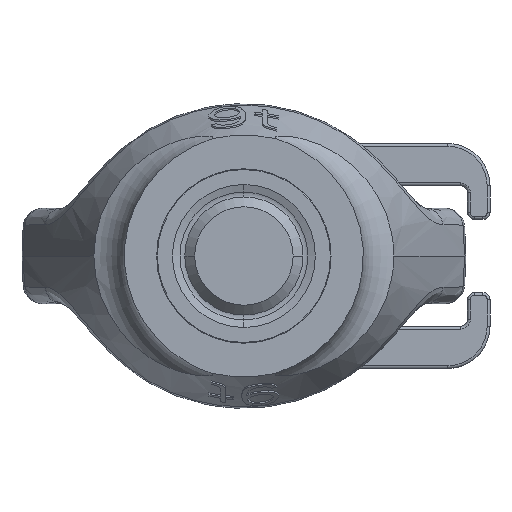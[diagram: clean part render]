
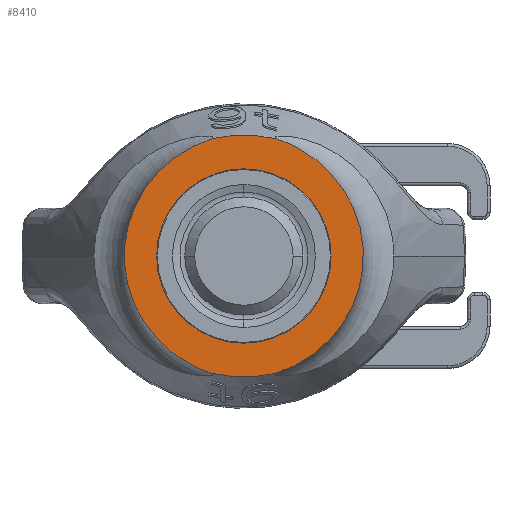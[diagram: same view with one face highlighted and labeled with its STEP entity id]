
A CAD part, front view. The second image highlights one B-rep face of the part: STEP entity #8410.
In plain terms, the highlighted planar face has unit normal (0, -1, 0).
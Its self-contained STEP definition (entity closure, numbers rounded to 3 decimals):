
#1573=CARTESIAN_POINT('',(11.245,0.,-41.737));
#1574=CARTESIAN_POINT('',(12.622,0.,-41.299));
#1575=CARTESIAN_POINT('',(15.313,0.,-40.302));
#1576=CARTESIAN_POINT('',(19.176,0.,-38.45));
#1577=CARTESIAN_POINT('',(22.821,0.,-36.267));
#1578=CARTESIAN_POINT('',(26.222,0.,-33.774));
#1579=CARTESIAN_POINT('',(29.354,0.,-30.998));
#1580=CARTESIAN_POINT('',(32.192,0.,-27.964));
#1581=CARTESIAN_POINT('',(34.717,0.,-24.703));
#1582=CARTESIAN_POINT('',(36.911,0.,-21.241));
#1583=CARTESIAN_POINT('',(38.761,0.,-17.611));
#1584=CARTESIAN_POINT('',(40.254,0.,-13.842));
#1585=CARTESIAN_POINT('',(41.382,0.,-9.964));
#1586=CARTESIAN_POINT('',(42.137,0.,-6.009));
#1587=CARTESIAN_POINT('',(42.516,0.,-2.008));
#1588=CARTESIAN_POINT('',(42.516,0.,2.008));
#1589=CARTESIAN_POINT('',(42.137,0.,6.009));
#1590=CARTESIAN_POINT('',(41.382,0.,9.964));
#1591=CARTESIAN_POINT('',(40.254,0.,13.842));
#1592=CARTESIAN_POINT('',(38.761,0.,17.611));
#1593=CARTESIAN_POINT('',(36.911,0.,21.241));
#1594=CARTESIAN_POINT('',(34.717,0.,24.703));
#1595=CARTESIAN_POINT('',(32.192,0.,27.964));
#1596=CARTESIAN_POINT('',(29.354,0.,30.998));
#1597=CARTESIAN_POINT('',(26.222,0.,33.774));
#1598=CARTESIAN_POINT('',(22.821,0.,36.267));
#1599=CARTESIAN_POINT('',(19.176,0.,38.45));
#1600=CARTESIAN_POINT('',(15.313,0.,40.302));
#1601=CARTESIAN_POINT('',(12.622,0.,41.299));
#1602=CARTESIAN_POINT('',(11.245,0.,41.737));
#1604=CARTESIAN_POINT('',(11.245,0.,-41.737));
#1605=CARTESIAN_POINT('',(10.541,0.,-41.898));
#1606=CARTESIAN_POINT('',(6.845,0.,-42.657));
#1607=CARTESIAN_POINT('',(0.,0.,-43.277));
#1608=CARTESIAN_POINT('',(-6.845,0.,-42.657));
#1609=CARTESIAN_POINT('',(-10.541,0.,-41.898));
#1610=CARTESIAN_POINT('',(-11.245,0.,-41.737));
#1612=CARTESIAN_POINT('',(11.245,0.,41.737));
#1613=CARTESIAN_POINT('',(10.541,0.,41.898));
#1614=CARTESIAN_POINT('',(6.845,0.,42.657));
#1615=CARTESIAN_POINT('',(0.,0.,43.277));
#1616=CARTESIAN_POINT('',(-6.845,0.,42.657));
#1617=CARTESIAN_POINT('',(-10.541,0.,41.898));
#1618=CARTESIAN_POINT('',(-11.245,0.,41.737));
#1620=CARTESIAN_POINT('',(0.,0.,0.));
#1621=DIRECTION('',(0.,-1.,0.));
#1622=DIRECTION('',(1.,0.,0.));
#1623=AXIS2_PLACEMENT_3D('',#1620,#1621,#1622);
#1625=CARTESIAN_POINT('',(0.,0.,0.));
#1626=DIRECTION('',(0.,-1.,0.));
#1627=DIRECTION('',(-1.,0.,0.));
#1628=AXIS2_PLACEMENT_3D('',#1625,#1626,#1627);
#1630=CARTESIAN_POINT('',(-11.245,0.,41.737));
#1631=CARTESIAN_POINT('',(-12.622,0.,41.299));
#1632=CARTESIAN_POINT('',(-15.313,0.,40.302));
#1633=CARTESIAN_POINT('',(-19.176,0.,38.45));
#1634=CARTESIAN_POINT('',(-22.821,0.,36.267));
#1635=CARTESIAN_POINT('',(-26.222,0.,33.774));
#1636=CARTESIAN_POINT('',(-29.354,0.,30.998));
#1637=CARTESIAN_POINT('',(-32.192,0.,27.964));
#1638=CARTESIAN_POINT('',(-34.717,0.,24.703));
#1639=CARTESIAN_POINT('',(-36.911,0.,21.241));
#1640=CARTESIAN_POINT('',(-38.761,0.,17.611));
#1641=CARTESIAN_POINT('',(-40.254,0.,13.842));
#1642=CARTESIAN_POINT('',(-41.382,0.,9.964));
#1643=CARTESIAN_POINT('',(-42.137,0.,6.009));
#1644=CARTESIAN_POINT('',(-42.516,0.,2.008));
#1645=CARTESIAN_POINT('',(-42.516,0.,-2.008));
#1646=CARTESIAN_POINT('',(-42.137,0.,-6.009));
#1647=CARTESIAN_POINT('',(-41.382,0.,-9.964));
#1648=CARTESIAN_POINT('',(-40.254,0.,-13.842));
#1649=CARTESIAN_POINT('',(-38.761,0.,-17.611));
#1650=CARTESIAN_POINT('',(-36.911,0.,-21.241));
#1651=CARTESIAN_POINT('',(-34.717,0.,-24.703));
#1652=CARTESIAN_POINT('',(-32.192,0.,-27.964));
#1653=CARTESIAN_POINT('',(-29.354,0.,-30.998));
#1654=CARTESIAN_POINT('',(-26.222,0.,-33.774));
#1655=CARTESIAN_POINT('',(-22.821,0.,-36.267));
#1656=CARTESIAN_POINT('',(-19.176,0.,-38.45));
#1657=CARTESIAN_POINT('',(-15.313,0.,-40.302));
#1658=CARTESIAN_POINT('',(-12.622,0.,-41.299));
#1659=CARTESIAN_POINT('',(-11.245,0.,-41.737));
#6357=CARTESIAN_POINT('',(31.,0.,0.));
#6358=CARTESIAN_POINT('',(-31.,0.,0.));
#6359=VERTEX_POINT('',#6357);
#6360=VERTEX_POINT('',#6358);
#6731=VERTEX_POINT('',#1612);
#6732=VERTEX_POINT('',#1618);
#6747=VERTEX_POINT('',#1604);
#6748=VERTEX_POINT('',#1610);
#8392=CARTESIAN_POINT('',(-46.881,0.,0.));
#8393=DIRECTION('',(0.,-1.,0.));
#8394=DIRECTION('',(1.,0.,0.));
#8395=AXIS2_PLACEMENT_3D('',#8392,#8393,#8394);
#8396=PLANE('',#8395);
#8397=ORIENTED_EDGE('',*,*,#8385,.F.);
#8398=ORIENTED_EDGE('',*,*,#7692,.T.);
#8400=ORIENTED_EDGE('',*,*,#8399,.F.);
#8401=ORIENTED_EDGE('',*,*,#8085,.F.);
#8402=EDGE_LOOP('',(#8397,#8398,#8400,#8401));
#8403=FACE_OUTER_BOUND('',#8402,.F.);
#8405=ORIENTED_EDGE('',*,*,#8404,.T.);
#8407=ORIENTED_EDGE('',*,*,#8406,.T.);
#8408=EDGE_LOOP('',(#8405,#8407));
#8409=FACE_BOUND('',#8408,.F.);
#8410=ADVANCED_FACE('',(#8403,#8409),#8396,.T.);
#1603=B_SPLINE_CURVE_WITH_KNOTS('',3,(#1573,#1574,#1575,#1576,#1577,#1578,#1579,
#1580,#1581,#1582,#1583,#1584,#1585,#1586,#1587,#1588,#1589,#1590,#1591,#1592,
#1593,#1594,#1595,#1596,#1597,#1598,#1599,#1600,#1601,#1602),.UNSPECIFIED.,.F.,
.F.,(4,1,1,1,1,1,1,1,1,1,1,1,1,1,1,1,1,1,1,1,1,1,1,1,1,1,1,4),(0.,
0.037,0.074,0.111,0.148,
0.185,0.222,0.259,0.296,
0.333,0.37,0.407,0.444,
0.481,0.519,0.556,0.593,
0.63,0.667,0.704,0.741,
0.778,0.815,0.852,0.889,
0.926,0.963,1.),.UNSPECIFIED.);
#1611=B_SPLINE_CURVE_WITH_KNOTS('',3,(#1604,#1605,#1606,#1607,#1608,#1609,
#1610),.UNSPECIFIED.,.F.,.F.,(4,1,1,1,4),(0.,0.096,0.5,
0.904,1.),.UNSPECIFIED.);
#1619=B_SPLINE_CURVE_WITH_KNOTS('',3,(#1612,#1613,#1614,#1615,#1616,#1617,
#1618),.UNSPECIFIED.,.F.,.F.,(4,1,1,1,4),(0.,0.096,0.5,
0.904,1.),.UNSPECIFIED.);
#1624=CIRCLE('',#1623,31.);
#1629=CIRCLE('',#1628,31.);
#1660=B_SPLINE_CURVE_WITH_KNOTS('',3,(#1630,#1631,#1632,#1633,#1634,#1635,#1636,
#1637,#1638,#1639,#1640,#1641,#1642,#1643,#1644,#1645,#1646,#1647,#1648,#1649,
#1650,#1651,#1652,#1653,#1654,#1655,#1656,#1657,#1658,#1659),.UNSPECIFIED.,.F.,
.F.,(4,1,1,1,1,1,1,1,1,1,1,1,1,1,1,1,1,1,1,1,1,1,1,1,1,1,1,4),(0.,
0.037,0.074,0.111,0.148,
0.185,0.222,0.259,0.296,
0.333,0.37,0.407,0.444,
0.481,0.519,0.556,0.593,
0.63,0.667,0.704,0.741,
0.778,0.815,0.852,0.889,
0.926,0.963,1.),.UNSPECIFIED.);
#7692=EDGE_CURVE('',#6747,#6748,#1611,.T.);
#8085=EDGE_CURVE('',#6731,#6732,#1619,.T.);
#8385=EDGE_CURVE('',#6747,#6731,#1603,.T.);
#8399=EDGE_CURVE('',#6732,#6748,#1660,.T.);
#8404=EDGE_CURVE('',#6359,#6360,#1624,.T.);
#8406=EDGE_CURVE('',#6360,#6359,#1629,.T.);
